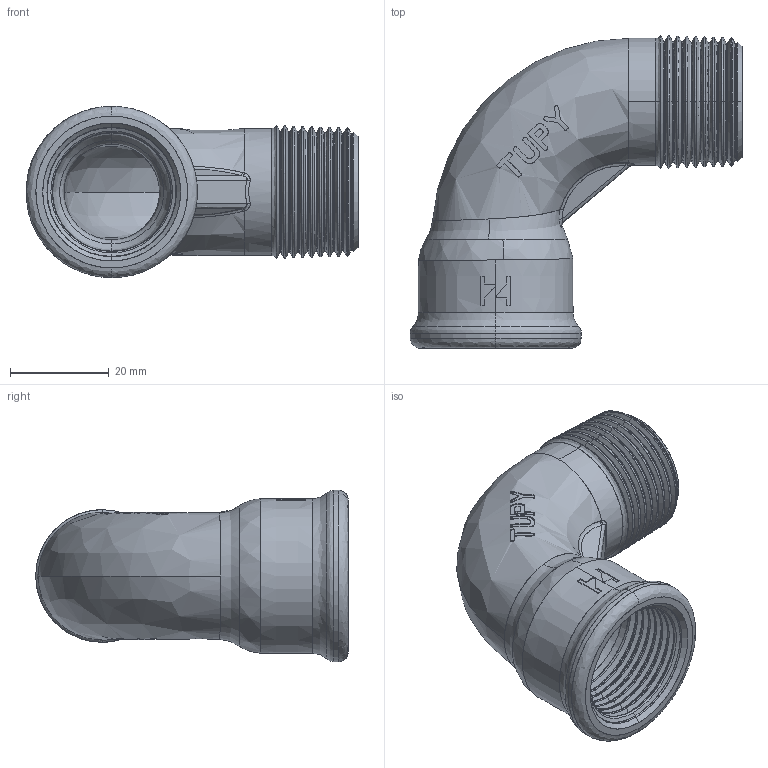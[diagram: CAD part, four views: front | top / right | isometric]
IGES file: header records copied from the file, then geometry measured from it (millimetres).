
Start section: SolidWorks IGES file using analytic representation for surfaces
Global section: file name: C:\Users\Joel Rosa\Desktop\Tubulação\12-22\12-22-006.IGS; native system: SolidWorks 2011; preprocessor: SolidWorks 2011; author: Joel Rosa; date: 131003.222047; units: millimetre
Bounding box: 67.4 x 63.47 x 34.8 mm (x, y, z)
Surface area: 15618.7 mm2 (no closed solid volume)
Topology: 0 solids, 0 shells, 351 faces, 3120 edges, 3120 vertices
Faces by surface type: bspline 254, revolution 97
